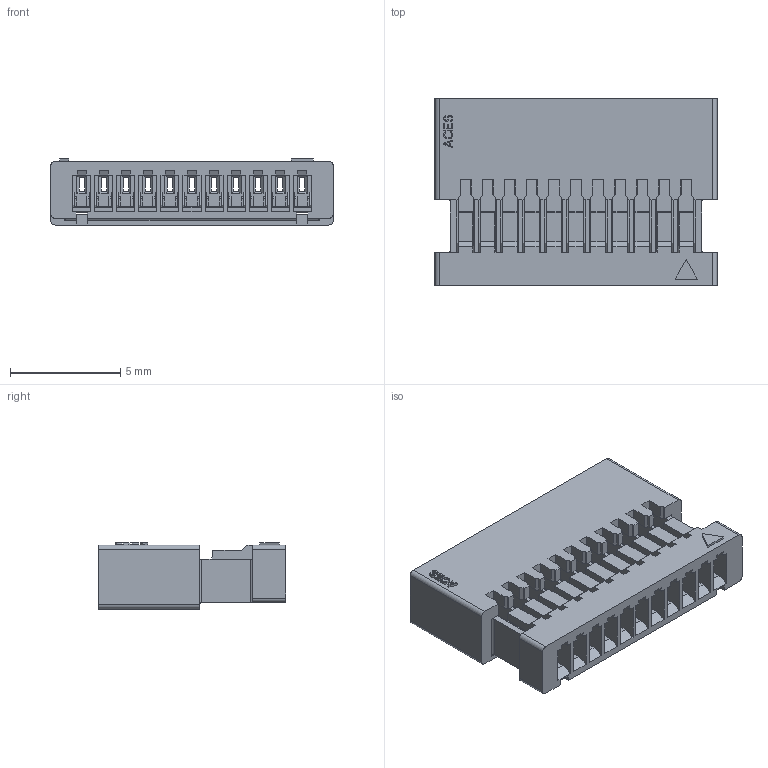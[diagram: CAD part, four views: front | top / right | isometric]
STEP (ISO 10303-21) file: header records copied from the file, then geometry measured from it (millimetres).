
FILE_DESCRIPTION((''),'2;1');
FILE_NAME('S-50237-011H','2020-10-20T',('k94556'),(''),'PRO/ENGINEER BY PARAMETRIC TECHNOLOGY CORPORATION, 2009360','PRO/ENGINEER BY PARAMETRIC TECHNOLOGY CORPORATION, 2009360','');
FILE_SCHEMA(('CONFIG_CONTROL_DESIGN'));
Length unit declared in the file: millimetre
Products named in the file (1): S-50237-011H
Bounding box: 12.8 x 8.5 x 3 mm (x, y, z)
Volume: 134.8 mm3; surface area: 696.9 mm2
Topology: 1 solids, 1 shells, 788 faces, 2264 edges, 1470 vertices
Faces by surface type: plane 773, cylinder 15
Entity records: 25254 total; most frequent: CARTESIAN_POINT 4536, ORIENTED_EDGE 4528, DIRECTION 3864, EDGE_CURVE 2264, VECTOR 2236, LINE 2236, VERTEX_POINT 1470, EDGE_LOOP 828
